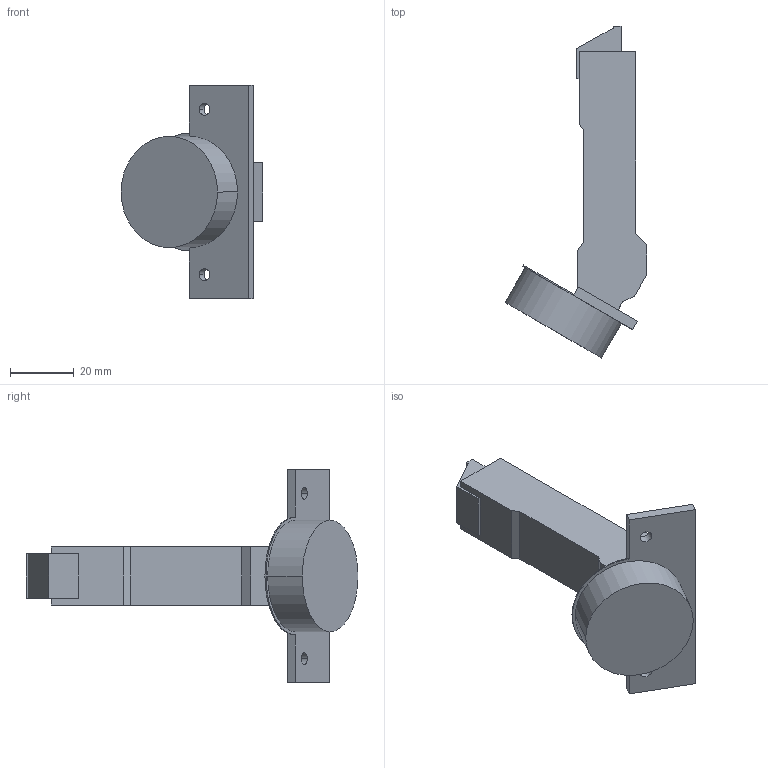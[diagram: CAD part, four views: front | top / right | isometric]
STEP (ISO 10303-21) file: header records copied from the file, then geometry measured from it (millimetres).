
FILE_DESCRIPTION (( 'STEP AP214' ), '1' );
FILE_NAME ('Scharnier T Click-on 110°_+30° H_BB, aufliegend, KMPL-37, H00.step', '2018-09-19T13:18:00', ( '' ), ( '' ), 'SwSTEP 2.0', 'SolidWorks 2017', '' );
FILE_SCHEMA (( 'AUTOMOTIVE_DESIGN' ));
Length unit declared in the file: millimetre
Products named in the file (1): Scharnier T Click-on 110°_+30° H_BB, aufliegend, KMPL-37, H00
Bounding box: 44.59 x 104.36 x 67 mm (x, y, z)
Volume: 42829.5 mm3; surface area: 12103.4 mm2
Topology: 1 solids, 1 shells, 48 faces, 126 edges, 84 vertices
Faces by surface type: plane 35, cylinder 13
Entity records: 1518 total; most frequent: CARTESIAN_POINT 259, ORIENTED_EDGE 252, DIRECTION 250, EDGE_CURVE 126, LINE 100, VECTOR 100, VERTEX_POINT 84, AXIS2_PLACEMENT_3D 75
